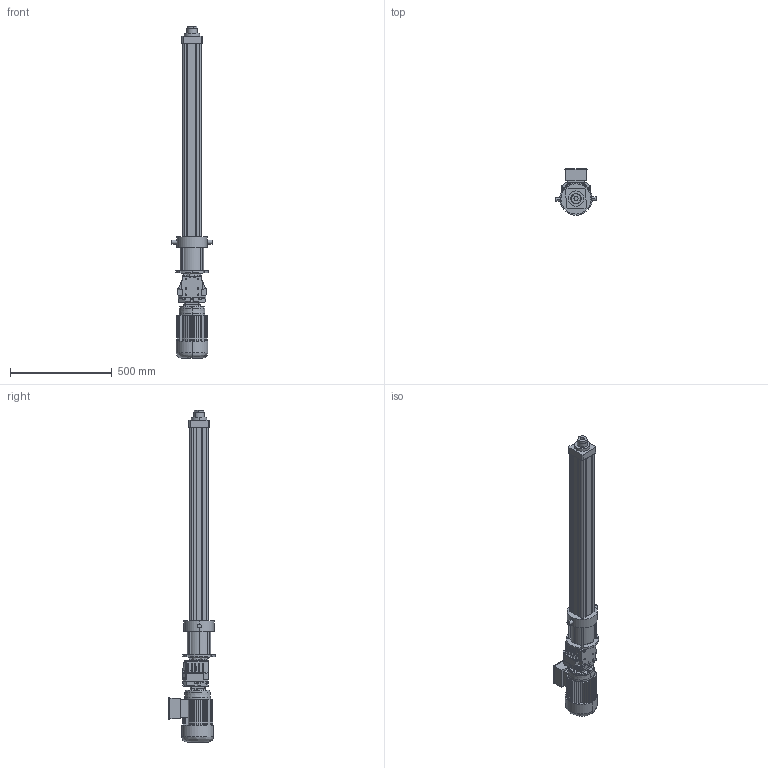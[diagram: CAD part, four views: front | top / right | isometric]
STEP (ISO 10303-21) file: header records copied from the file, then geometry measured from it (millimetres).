
FILE_DESCRIPTION (( 'STEP AP214' ), '1' );
FILE_NAME ('Ass MR80 BI C800.STEP', '2016-12-25T10:37:34', ( 'Hubert' ), ( '' ), 'SwSTEP 2.0', 'SolidWorks 2014', '' );
FILE_SCHEMA (( 'AUTOMOTIVE_DESIGN' ));
Length unit declared in the file: millimetre
Products named in the file (10): Ass MR80 BI C800; Tube MR 80 BI C800; PAAV 80 D; Profilé MRRV80 BI C800; Vis MRRV80 BI C800; PAAR 80 B160; PAAR 80B160; Ass 402A_F MOT 80 F; _P_402A_-F_6,36_V_3_-R___B3.3d; _AT_80_B_2_1,10_B14_F_230-400-50_DC-S.3d
Assembly tree (9 placements, depth 3):
  Ass MR80 BI C800
    Ass 402A_F MOT 80 F
      _AT_80_B_2_1,10_B14_F_230-400-50_DC-S.3d
      _P_402A_-F_6,36_V_3_-R___B3.3d
    PAAR 80 B160
      PAAR 80B160
    Vis MRRV80 BI C800
    Profilé MRRV80 BI C800
    PAAV 80 D
    Tube MR 80 BI C800
Bounding box: 198.33 x 229 x 1628.8 mm (x, y, z)
Volume: 9853358.7 mm3; surface area: 1879664.6 mm2
Topology: 6 solids, 26 shells, 1443 faces, 3631 edges, 2299 vertices
Faces by surface type: plane 787, cylinder 440, cone 112, bspline 104
Entity records: 78633 total; most frequent: CARTESIAN_POINT 30556, ORIENTED_EDGE 7184, DIRECTION 6238, EDGE_CURVE 3593, VERTEX_POINT 2299, VECTOR 2122, LINE 2122, AXIS2_PLACEMENT_3D 2058
